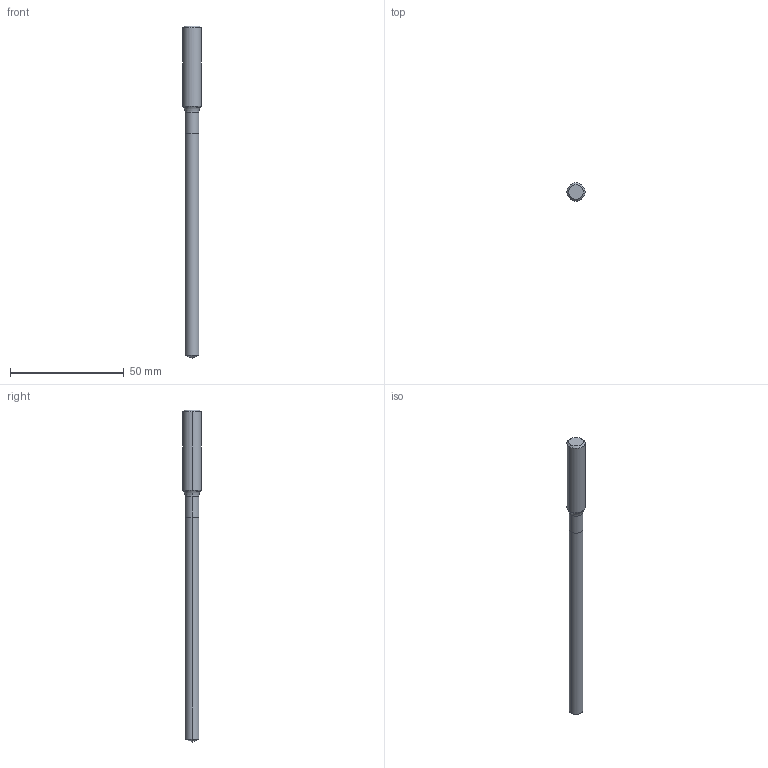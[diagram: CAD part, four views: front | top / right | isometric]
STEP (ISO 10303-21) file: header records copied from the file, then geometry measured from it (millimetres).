
FILE_DESCRIPTION (( 'STEP AP214' ), '1' );
FILE_NAME ('710.061.00_3D-model.step', '2022-02-22T16:48:27', ( '' ), ( '' ), 'SwSTEP 2.0', 'SolidWorks 2020', '' );
FILE_SCHEMA (( 'AUTOMOTIVE_DESIGN' ));
Length unit declared in the file: millimetre
Products named in the file (3): NOCUT-3D^Baugr19; CUT-3D^Baugr19; 710.061.00_3D-model
Assembly tree (2 placements, depth 2):
  710.061.00_3D-model
    CUT-3D^Baugr19
    NOCUT-3D^Baugr19
Bounding box: 8 x 8 x 146 mm (x, y, z)
Volume: 4995.6 mm3; surface area: 3122.2 mm2
Topology: 2 solids, 2 shells, 17 faces, 32 edges, 17 vertices
Faces by surface type: cone 6, cylinder 6, plane 3, torus 2
Entity records: 532 total; most frequent: DIRECTION 98, CARTESIAN_POINT 72, ORIENTED_EDGE 60, AXIS2_PLACEMENT_3D 43, EDGE_CURVE 30, CIRCLE 18, EDGE_LOOP 17, VERTEX_POINT 17
